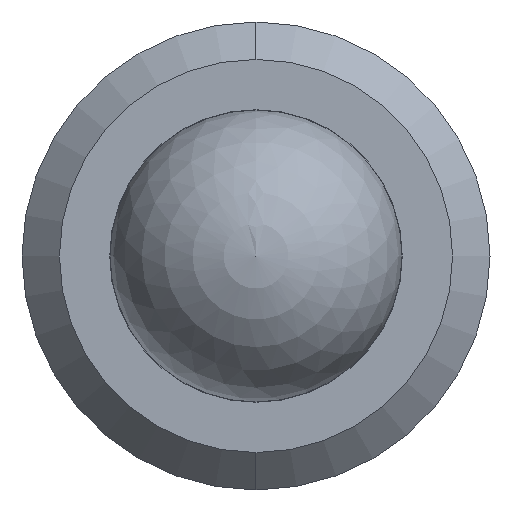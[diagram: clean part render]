
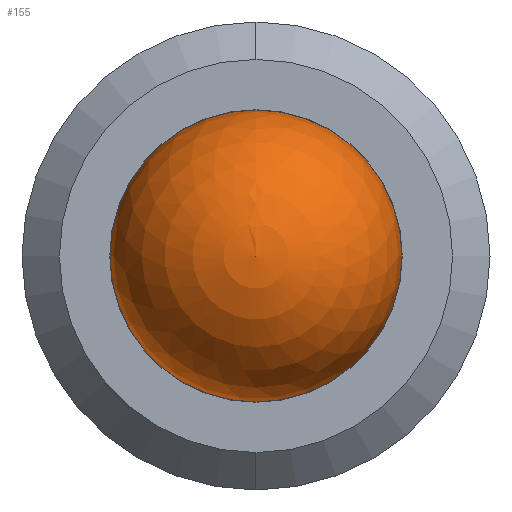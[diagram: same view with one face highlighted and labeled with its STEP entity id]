
A CAD part, left-side view. The second image highlights one B-rep face of the part: STEP entity #155.
In plain terms, the highlighted spherical face has radius 1.984 mm.
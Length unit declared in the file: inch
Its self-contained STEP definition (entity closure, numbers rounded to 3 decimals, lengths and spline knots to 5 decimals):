
#73 = EDGE_CURVE ( 'NONE', #320, #228, #505, .T. ) ;
#76 = EDGE_CURVE ( 'NONE', #320, #228, #364, .T. ) ;
#77 = CARTESIAN_POINT ( 'NONE',  ( 0., 0., 0. ) ) ;
#155 = ADVANCED_FACE ( 'NONE', ( #614 ), #372, .T. ) ;
#222 = ORIENTED_EDGE ( 'NONE', *, *, #73, .F. ) ;
#228 = VERTEX_POINT ( 'NONE', #510 ) ;
#285 = DIRECTION ( 'NONE',  ( -1., 0., 0. ) ) ;
#289 = DIRECTION ( 'NONE',  ( 0., 0., 1. ) ) ;
#320 = VERTEX_POINT ( 'NONE', #367 ) ;
#364 = CIRCLE ( 'NONE', #548, 0.07813 ) ;
#367 = CARTESIAN_POINT ( 'NONE',  ( 0., 0.07813, 0. ) ) ;
#372 = SPHERICAL_SURFACE ( 'NONE', #431, 0.07813 ) ;
#380 = ORIENTED_EDGE ( 'NONE', *, *, #76, .T. ) ;
#423 = CARTESIAN_POINT ( 'NONE',  ( 0., 0., 0. ) ) ;
#431 = AXIS2_PLACEMENT_3D ( 'NONE', #77, #285, #289 ) ;
#505 = CIRCLE ( 'NONE', #586, 0.07813 ) ;
#510 = CARTESIAN_POINT ( 'NONE',  ( 0., -0.07813, 0. ) ) ;
#513 = DIRECTION ( 'NONE',  ( 0., 0., 1. ) ) ;
#516 = DIRECTION ( 'NONE',  ( -1., 0., 0. ) ) ;
#531 = CARTESIAN_POINT ( 'NONE',  ( 0., 0., 0. ) ) ;
#548 = AXIS2_PLACEMENT_3D ( 'NONE', #531, #516, #513 ) ;
#559 = DIRECTION ( 'NONE',  ( 0., 0., -1. ) ) ;
#560 = DIRECTION ( 'NONE',  ( 1., 0., 0. ) ) ;
#586 = AXIS2_PLACEMENT_3D ( 'NONE', #423, #560, #559 ) ;
#602 = EDGE_LOOP ( 'NONE', ( #222, #380 ) ) ;
#614 = FACE_OUTER_BOUND ( 'NONE', #602, .T. ) ;
